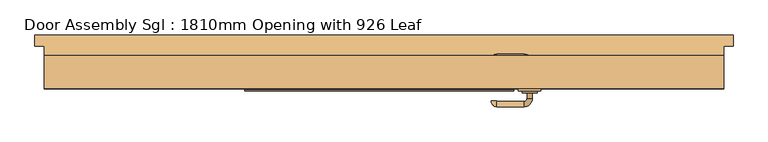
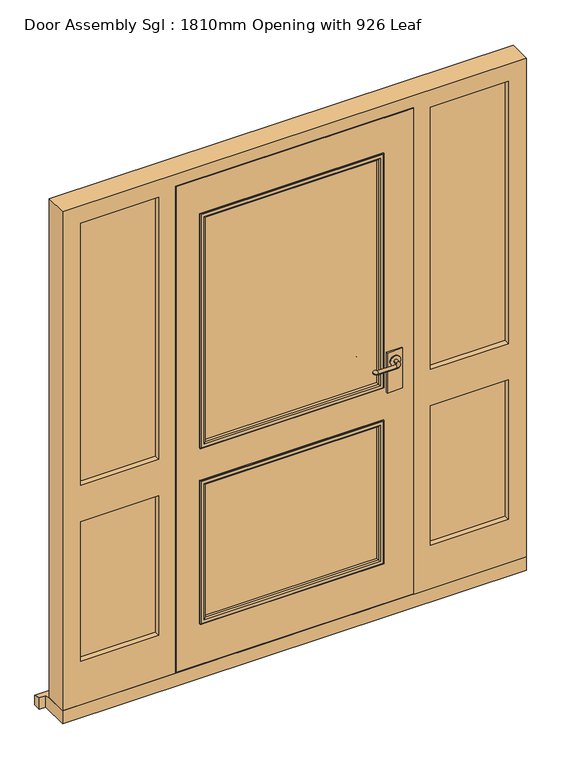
"""IFC4 building model written with IfcOpenShell, lengths in millimetres: door geometry, Door Assembly Sgl : 1810mm Opening with 926 Leaf."""

from ifc_helpers import new_model, si_unit, point, frame, frame_2d, origin, place, context, project, spatial, polyline, circle_curve, ellipse_curve, trimmed, segment, composite_curve, outline, extrude, faceted_brep, source, transform, mapped, element, save
from ifc_brep_helpers import plane_surface, cylinder_surface, revolved_surface, advanced_brep


def door_assembly_sgl_1810mm_opening_with_926_leaf_9757ed1b(model_context):
    return source(origin(), model_context, "Body", "SolidModel", [
        extrude(outline(composite_curve([segment(trimmed(circle_curve(frame_2d((1050.0, 680.0)), 20.0), [point((1050.0, 700.0))], [point((1050.0, 660.0))], False, "CARTESIAN"), True, "CONTINUOUS"), segment(trimmed(circle_curve(frame_2d((1050.0, 680.0)), 20.0), [point((1050.0, 660.0))], [point((1050.0, 700.0))], False, "CARTESIAN"), True, "CONTINUOUS")], self_intersect=False)), frame((0.0, -49.5929895, 0.0), z_axis=(0.0, 1.0, 0.0), x_axis=(0.0, 0.0, 1.0)), (0.0, 0.0, 1.0), 4.5929895),
        advanced_brep(
        [(673.0, -49.5929895, 1050.0), (687.0, -49.5929895, 1050.0), (673.0, -65.0, 1050.0), (687.0, -65.0, 1050.0), (665.0, -87.0, 1050.0), (665.0, -73.0, 1050.0), (593.0, -73.0, 1050.0), (593.0, -87.0, 1050.0), (592.0, -72.0, 1050.0), (578.0, -72.0, 1050.0)],
        [
            (0, 1, circle_curve(frame((680.0, -49.5929895, 1050.0), z_axis=(0.0, 1.0, 0.0), x_axis=(1.0, 0.0, 0.0)), 7.0)),
            (1, 0, circle_curve(frame((680.0, -49.5929895, 1050.0), z_axis=(0.0, 1.0, 0.0), x_axis=(1.0, 0.0, 0.0)), 7.0)),
            (0, 2),
            (2, 3, circle_curve(frame((680.0, -65.0, 1050.0), z_axis=(0.0, 1.0, 0.0), x_axis=(1.0, 0.0, 0.0)), 7.0)),
            (3, 1),
            (3, 2, circle_curve(frame((680.0, -65.0, 1050.0), z_axis=(0.0, 1.0, 0.0), x_axis=(1.0, 0.0, 0.0)), 7.0)),
            (4, 3, circle_curve(frame((665.0, -65.0, 1050.0), z_axis=(0.0, 0.0, 1.0), x_axis=(1.0, 0.0, 0.0)), 22.0)),
            (2, 5, circle_curve(frame((665.0, -65.0, 1050.0), z_axis=(0.0, 0.0, -1.0), x_axis=(1.0, 0.0, 0.0)), 8.0)),
            (5, 4, circle_curve(frame((665.0, -80.0, 1050.0), z_axis=(1.0, 0.0, 0.0), x_axis=(0.0, -1.0, 0.0)), 7.0)),
            (4, 5, circle_curve(frame((665.0, -80.0, 1050.0), z_axis=(1.0, 0.0, 0.0), x_axis=(0.0, -1.0, 0.0)), 7.0)),
            (5, 6),
            (6, 7, circle_curve(frame((593.0, -80.0, 1050.0), z_axis=(1.0, 0.0, 0.0), x_axis=(0.0, -1.0, 0.0)), 7.0)),
            (7, 4),
            (7, 6, circle_curve(frame((593.0, -80.0, 1050.0), z_axis=(1.0, 0.0, 0.0), x_axis=(0.0, -1.0, 0.0)), 7.0)),
            (8, 9, circle_curve(frame((585.0, -72.0, 1050.0), z_axis=(0.0, 1.0, 0.0), x_axis=(-1.0, 0.0, 0.0)), 7.0)),
            (9, 8, circle_curve(frame((585.0, -72.0, 1050.0), z_axis=(0.0, 1.0, 0.0), x_axis=(-1.0, 0.0, 0.0)), 7.0)),
            (9, 7, circle_curve(frame((593.0, -72.0, 1050.0), z_axis=(0.0, 0.0, 1.0), x_axis=(0.0, -1.0, 0.0)), 15.0)),
            (6, 8, circle_curve(frame((593.0, -72.0, 1050.0), z_axis=(0.0, 0.0, -1.0), x_axis=(0.0, -1.0, 0.0)), 1.0)),
        ],
        [
            plane_surface(frame((680.0, -49.5929895, 1050.0), z_axis=(0.0, 1.0, 0.0), x_axis=(0.0, 0.0, 1.0))),
            cylinder_surface(frame((680.0, -49.5929895, 1050.0), z_axis=(0.0, 1.0, 0.0), x_axis=(1.0, 0.0, 0.0)), 7.0),
            revolved_surface(trimmed(ellipse_curve(frame((680.0, -65.0, 1050.0), z_axis=(0.0, 1.0, 0.0), x_axis=(1.0, 0.0, 0.0)), 7.0, 7.0), [point((673.0, -65.0, 1050.0))], [point((687.0, -65.0, 1050.0))], True, "CARTESIAN"), (665.0, -65.0, 1050.0), (0.0, 0.0, -1.0)),
            revolved_surface(trimmed(ellipse_curve(frame((680.0, -65.0, 1050.0), z_axis=(0.0, 1.0, 0.0), x_axis=(1.0, 0.0, 0.0)), 7.0, 7.0), [point((687.0, -65.0, 1050.0))], [point((673.0, -65.0, 1050.0))], True, "CARTESIAN"), (665.0, -65.0, 1050.0), (0.0, 0.0, -1.0)),
            cylinder_surface(frame((665.0, -80.0, 1050.0), z_axis=(1.0, 0.0, 0.0), x_axis=(0.0, -1.0, 0.0)), 7.0),
            plane_surface(frame((585.0, -72.0, 1050.0), z_axis=(0.0, 1.0, 0.0), x_axis=(0.0, 0.0, 1.0))),
            revolved_surface(trimmed(ellipse_curve(frame((593.0, -80.0, 1050.0), z_axis=(1.0, 0.0, 0.0), x_axis=(0.0, -1.0, 0.0)), 7.0, 7.0), [point((593.0, -73.0, 1050.0))], [point((593.0, -87.0, 1050.0))], True, "CARTESIAN"), (593.0, -72.0, 1050.0), (0.0, 0.0, -1.0)),
            revolved_surface(trimmed(ellipse_curve(frame((593.0, -80.0, 1050.0), z_axis=(1.0, 0.0, 0.0), x_axis=(0.0, -1.0, 0.0)), 7.0, 7.0), [point((593.0, -87.0, 1050.0))], [point((593.0, -73.0, 1050.0))], True, "CARTESIAN"), (593.0, -72.0, 1050.0), (0.0, 0.0, -1.0)),
        ],
        [
            (0, [[1, 2]]),
            (1, [[-1, 3, 4, 5]]),
            (1, [[-2, -5, 6, -3]]),
            (2, [[7, -4, 8, 9]]),
            (3, [[-8, -6, -7, 10]]),
            (4, [[-9, 11, 12, 13]]),
            (4, [[-10, -13, 14, -11]]),
            (5, [[15, 16]]),
            (6, [[17, -12, 18, -16]]),
            (7, [[-18, -14, -17, -15]]),
        ],
    ),
        extrude(outline(polyline([(650.0, -39.0), (710.0, -39.0), (710.0, -45.0), (650.0, -45.0), (650.0, -39.0)])), frame((0.0, 0.0, 925.0), z_axis=(0.0, 0.0, 1.0), x_axis=(1.0, 0.0, 0.0)), (0.0, 0.0, 1.0), 165.0),
        extrude(outline(composite_curve([segment(trimmed(circle_curve(frame_2d((1050.0, 680.0)), 20.0), [point((1050.0, 700.0))], [point((1050.0, 660.0))], False, "CARTESIAN"), True, "CONTINUOUS"), segment(trimmed(circle_curve(frame_2d((1050.0, 680.0)), 20.0), [point((1050.0, 660.0))], [point((1050.0, 700.0))], False, "CARTESIAN"), True, "CONTINUOUS")], self_intersect=False)), frame((0.0, 11.0, 0.0), z_axis=(0.0, 1.0, 0.0), x_axis=(0.0, 0.0, 1.0)), (0.0, 0.0, 1.0), 4.5929895),
        advanced_brep(
        [(673.0, 15.5929895, 1050.0), (687.0, 15.5929895, 1050.0), (687.0, 31.0, 1050.0), (673.0, 31.0, 1050.0), (665.0, 53.0, 1050.0), (665.0, 39.0, 1050.0), (593.0, 53.0, 1050.0), (593.0, 39.0, 1050.0), (592.0, 38.0, 1050.0), (578.0, 38.0, 1050.0)],
        [
            (0, 1, circle_curve(frame((680.0, 15.5929895, 1050.0), z_axis=(0.0, -1.0, 0.0), x_axis=(1.0, 0.0, 0.0)), 7.0)),
            (1, 0, circle_curve(frame((680.0, 15.5929895, 1050.0), z_axis=(0.0, -1.0, 0.0), x_axis=(1.0, 0.0, 0.0)), 7.0)),
            (1, 2),
            (2, 3, circle_curve(frame((680.0, 31.0, 1050.0), z_axis=(0.0, -1.0, 0.0), x_axis=(1.0, 0.0, 0.0)), 7.0)),
            (3, 0),
            (3, 2, circle_curve(frame((680.0, 31.0, 1050.0), z_axis=(0.0, -1.0, 0.0), x_axis=(1.0, 0.0, 0.0)), 7.0)),
            (4, 5, circle_curve(frame((665.0, 46.0, 1050.0), z_axis=(1.0, 0.0, 0.0), x_axis=(0.0, 1.0, 0.0)), 7.0)),
            (5, 3, circle_curve(frame((665.0, 31.0, 1050.0), z_axis=(0.0, 0.0, -1.0), x_axis=(1.0, 0.0, 0.0)), 8.0)),
            (2, 4, circle_curve(frame((665.0, 31.0, 1050.0), z_axis=(0.0, 0.0, 1.0), x_axis=(1.0, 0.0, 0.0)), 22.0)),
            (5, 4, circle_curve(frame((665.0, 46.0, 1050.0), z_axis=(1.0, 0.0, 0.0), x_axis=(0.0, 1.0, 0.0)), 7.0)),
            (4, 6),
            (6, 7, circle_curve(frame((593.0, 46.0, 1050.0), z_axis=(1.0, 0.0, 0.0), x_axis=(0.0, 1.0, 0.0)), 7.0)),
            (7, 5),
            (7, 6, circle_curve(frame((593.0, 46.0, 1050.0), z_axis=(1.0, 0.0, 0.0), x_axis=(0.0, 1.0, 0.0)), 7.0)),
            (8, 9, circle_curve(frame((585.0, 38.0, 1050.0), z_axis=(0.0, -1.0, 0.0), x_axis=(-1.0, 0.0, 0.0)), 7.0)),
            (9, 8, circle_curve(frame((585.0, 38.0, 1050.0), z_axis=(0.0, -1.0, 0.0), x_axis=(-1.0, 0.0, 0.0)), 7.0)),
            (8, 7, circle_curve(frame((593.0, 38.0, 1050.0), z_axis=(0.0, 0.0, -1.0), x_axis=(0.0, 1.0, 0.0)), 1.0)),
            (6, 9, circle_curve(frame((593.0, 38.0, 1050.0), z_axis=(0.0, 0.0, 1.0), x_axis=(0.0, 1.0, 0.0)), 15.0)),
        ],
        [
            plane_surface(frame((680.0, 15.5929895, 1050.0), z_axis=(0.0, -1.0, 0.0), x_axis=(0.0, 0.0, 1.0))),
            cylinder_surface(frame((680.0, 15.5929895, 1050.0), z_axis=(0.0, -1.0, 0.0), x_axis=(1.0, 0.0, 0.0)), 7.0),
            revolved_surface(trimmed(ellipse_curve(frame((680.0, 31.0, 1050.0), z_axis=(0.0, 1.0, 0.0), x_axis=(1.0, 0.0, 0.0)), 7.0, 7.0), [point((673.0, 31.0, 1050.0))], [point((687.0, 31.0, 1050.0))], True, "CARTESIAN"), (665.0, 31.0, 1050.0), (0.0, 0.0, -1.0)),
            revolved_surface(trimmed(ellipse_curve(frame((680.0, 31.0, 1050.0), z_axis=(0.0, 1.0, 0.0), x_axis=(1.0, 0.0, 0.0)), 7.0, 7.0), [point((687.0, 31.0, 1050.0))], [point((673.0, 31.0, 1050.0))], True, "CARTESIAN"), (665.0, 31.0, 1050.0), (0.0, 0.0, -1.0)),
            cylinder_surface(frame((665.0, 46.0, 1050.0), z_axis=(1.0, 0.0, 0.0), x_axis=(0.0, 1.0, 0.0)), 7.0),
            plane_surface(frame((585.0, 38.0, 1050.0), z_axis=(0.0, -1.0, 0.0), x_axis=(0.0, 0.0, 1.0))),
            revolved_surface(trimmed(ellipse_curve(frame((593.0, 46.0, 1050.0), z_axis=(-1.0, 0.0, 0.0), x_axis=(0.0, 1.0, 0.0)), 7.0, 7.0), [point((593.0, 39.0, 1050.0))], [point((593.0, 53.0, 1050.0))], True, "CARTESIAN"), (593.0, 38.0, 1050.0), (0.0, 0.0, -1.0)),
            revolved_surface(trimmed(ellipse_curve(frame((593.0, 46.0, 1050.0), z_axis=(-1.0, 0.0, 0.0), x_axis=(0.0, 1.0, 0.0)), 7.0, 7.0), [point((593.0, 53.0, 1050.0))], [point((593.0, 39.0, 1050.0))], True, "CARTESIAN"), (593.0, 38.0, 1050.0), (0.0, 0.0, -1.0)),
        ],
        [
            (0, [[1, 2]]),
            (1, [[3, 4, 5, -2]]),
            (1, [[-5, 6, -3, -1]]),
            (2, [[7, 8, -4, 9]]),
            (3, [[10, -9, -6, -8]]),
            (4, [[11, 12, 13, -7]]),
            (4, [[-13, 14, -11, -10]]),
            (5, [[15, 16]]),
            (6, [[-15, 17, -12, 18]]),
            (7, [[-16, -18, -14, -17]]),
        ],
    ),
        extrude(outline(polyline([(650.0, 5.0), (650.0, 11.0), (710.0, 11.0), (710.0, 5.0), (650.0, 5.0)])), frame((0.0, 0.0, 925.0), z_axis=(0.0, 0.0, 1.0), x_axis=(1.0, 0.0, 0.0)), (0.0, 0.0, 1.0), 165.0),
        extrude(outline(polyline([(1148.5, -16.0), (800.0, -16.0), (800.0, 8.0), (1148.5, 8.0), (1148.5, -16.0)])), frame((0.0, 0.0, 218.5), z_axis=(0.0, 0.0, 1.0), x_axis=(1.0, 0.0, 0.0)), (0.0, 0.0, 1.0), 605.0),
        extrude(outline(polyline([(1148.5, -16.0), (800.0, -16.0), (800.0, 8.0), (1148.5, 8.0), (1148.5, -16.0)])), frame((0.0, 0.0, 943.5), z_axis=(0.0, 0.0, 1.0), x_axis=(1.0, 0.0, 0.0)), (0.0, 0.0, 1.0), 1118.0),
        extrude(outline(polyline([(-216.0, -16.0), (-564.5, -16.0), (-564.5, 8.0), (-216.0, 8.0), (-216.0, -16.0)])), frame((0.0, 0.0, 943.5), z_axis=(0.0, 0.0, 1.0), x_axis=(1.0, 0.0, 0.0)), (0.0, 0.0, 1.0), 1118.0),
        extrude(outline(polyline([(-216.0, -16.0), (-564.5, -16.0), (-564.5, 8.0), (-216.0, 8.0), (-216.0, -16.0)])), frame((0.0, 0.0, 218.5), z_axis=(0.0, 0.0, 1.0), x_axis=(1.0, 0.0, 0.0)), (0.0, 0.0, 1.0), 605.0),
        faceted_brep([(1197.0, 50.0, 54.5), (1197.0, -39.0, 54.5), (758.0, -39.0, 54.5), (758.0, 8.0, 54.5), (736.0, 8.0, 54.5), (736.0, 50.0, 54.5), (1197.0, 50.0, 2110.0), (1197.0, -39.0, 2110.0), (-613.0, -39.0, 2110.0), (-613.0, -39.0, 54.5), (-174.0, -39.0, 54.5), (-174.0, -39.0, 2061.5), (758.0, -39.0, 2061.5), (1126.5, -39.0, 958.5), (822.0, -39.0, 958.5), (822.0, -39.0, 2039.5), (1126.5, -39.0, 2039.5), (822.0, -39.0, 808.5), (1126.5, -39.0, 808.5), (1126.5, -39.0, 233.5), (822.0, -39.0, 233.5), (-238.0, -39.0, 808.5), (-238.0, -39.0, 233.5), (-542.5, -39.0, 233.5), (-542.5, -39.0, 808.5), (-542.5, -39.0, 2039.5), (-238.0, -39.0, 2039.5), (-238.0, -39.0, 958.5), (-542.5, -39.0, 958.5), (758.0, 8.0, 2061.5), (-174.0, 8.0, 54.5), (-152.0, 8.0, 54.5), (-152.0, 8.0, 2039.5), (736.0, 8.0, 2039.5), (-174.0, 8.0, 2061.5), (1148.5, 8.0, 218.5), (1148.5, 8.0, 823.5), (800.0, 8.0, 823.5), (800.0, 8.0, 218.5), (1126.5, 8.0, 808.5), (1126.5, 8.0, 233.5), (822.0, 8.0, 233.5), (822.0, 8.0, 808.5), (-564.5, 8.0, 823.5), (-564.5, 8.0, 218.5), (-216.0, 8.0, 218.5), (-216.0, 8.0, 823.5), (-238.0, 8.0, 808.5), (-238.0, 8.0, 233.5), (-542.5, 8.0, 233.5), (-542.5, 8.0, 808.5), (-216.0, 8.0, 2061.5), (-564.5, 8.0, 2061.5), (-564.5, 8.0, 943.5), (-216.0, 8.0, 943.5), (-542.5, 8.0, 2039.5), (-238.0, 8.0, 2039.5), (-238.0, 8.0, 958.5), (-542.5, 8.0, 958.5), (1148.5, 8.0, 2061.5), (800.0, 8.0, 2061.5), (800.0, 8.0, 943.5), (1148.5, 8.0, 943.5), (822.0, 8.0, 2039.5), (1126.5, 8.0, 2039.5), (1126.5, 8.0, 958.5), (822.0, 8.0, 958.5), (736.0, 50.0, 2039.5), (-613.0, 50.0, 54.5), (-613.0, 50.0, 2110.0), (-152.0, 50.0, 2039.5), (-152.0, 50.0, 54.5), (-238.0, 50.0, 2039.5), (-542.5, 50.0, 2039.5), (-542.5, 50.0, 233.5), (-238.0, 50.0, 233.5), (1126.5, 50.0, 2039.5), (822.0, 50.0, 2039.5), (822.0, 50.0, 233.5), (1126.5, 50.0, 233.5), (-542.5, 31.0, 958.5), (-542.5, 31.0, 808.5), (-238.0, 31.0, 808.5), (-238.0, 31.0, 958.5), (822.0, 31.0, 958.5), (822.0, 31.0, 808.5), (1126.5, 31.0, 808.5), (1126.5, 31.0, 958.5), (1126.5, -16.0, 958.5), (822.0, -16.0, 958.5), (822.0, -16.0, 233.5), (822.0, -16.0, 808.5), (822.0, -16.0, 2039.5), (1126.5, -16.0, 808.5), (1126.5, -16.0, 233.5), (1126.5, -16.0, 2039.5), (-238.0, -16.0, 808.5), (-238.0, -16.0, 233.5), (-238.0, -16.0, 2039.5), (-238.0, -16.0, 958.5), (-542.5, -16.0, 233.5), (-542.5, -16.0, 808.5), (-542.5, -16.0, 2039.5), (-542.5, -16.0, 958.5), (1148.5, -16.0, 218.5), (1148.5, -16.0, 823.5), (1148.5, -16.0, 943.5), (1148.5, -16.0, 2061.5), (800.0, -16.0, 218.5), (800.0, -16.0, 823.5), (800.0, -16.0, 2061.5), (800.0, -16.0, 943.5), (-564.5, -16.0, 218.5), (-564.5, -16.0, 823.5), (-564.5, -16.0, 943.5), (-564.5, -16.0, 2061.5), (-216.0, -16.0, 943.5), (-216.0, -16.0, 2061.5), (-216.0, -16.0, 218.5), (-216.0, -16.0, 823.5)], [[[0, 1, 2, 3, 4, 5]], [[1, 0, 6, 7]], [[1, 7, 8, 9, 10, 11, 12, 2], [13, 14, 15, 16], [17, 18, 19, 20], [21, 22, 23, 24], [25, 26, 27, 28]], [[3, 2, 12, 29]], [[30, 31, 32, 33, 4, 3, 29, 34]], [[35, 36, 37, 38], [39, 40, 41, 42]], [[43, 44, 45, 46], [47, 48, 49, 50]], [[51, 52, 53, 54], [55, 56, 57, 58]], [[59, 60, 61, 62], [63, 64, 65, 66]], [[5, 4, 33, 67]], [[68, 69, 6, 0, 5, 67, 70, 71], [72, 73, 74, 75], [76, 77, 78, 79]], [[69, 68, 9, 8]], [[31, 71, 70, 32]], [[9, 68, 71, 31, 30, 10]], [[73, 55, 58, 80, 81, 50, 49, 74]], [[49, 48, 75, 74]], [[56, 72, 75, 48, 47, 82, 83, 57]], [[77, 63, 66, 84, 85, 42, 41, 78]], [[79, 78, 41, 40]], [[64, 76, 79, 40, 39, 86, 87, 65]], [[14, 13, 88, 89]], [[17, 20, 90, 91]], [[92, 15, 14, 89]], [[19, 18, 93, 94]], [[16, 95, 88, 13]], [[18, 17, 91, 93]], [[20, 19, 94, 90]], [[22, 21, 96, 97]], [[26, 98, 99, 27]], [[23, 22, 97, 100]], [[24, 23, 100, 101]], [[102, 25, 28, 103]], [[21, 24, 101, 96]], [[28, 27, 99, 103]], [[10, 30, 34, 11]], [[104, 105, 36, 35]], [[106, 107, 59, 62]], [[104, 108, 109, 105], [94, 93, 91, 90]], [[110, 107, 106, 111], [95, 92, 89, 88]], [[36, 105, 109, 37]], [[108, 104, 35, 38]], [[111, 106, 62, 61]], [[58, 57, 83, 80]], [[112, 44, 43, 113]], [[114, 53, 52, 115]], [[53, 114, 116, 54]], [[54, 116, 117, 51]], [[45, 118, 119, 46]], [[66, 65, 87, 84]], [[110, 111, 61, 60]], [[109, 108, 38, 37]], [[39, 42, 85, 86]], [[47, 50, 81, 82]], [[112, 118, 45, 44]], [[113, 43, 46, 119]], [[84, 87, 86, 85]], [[118, 112, 113, 119], [100, 97, 96, 101]], [[115, 117, 116, 114], [98, 102, 103, 99]], [[80, 83, 82, 81]], [[6, 69, 8, 7]], [[52, 51, 117, 115]], [[60, 59, 107, 110]], [[11, 34, 29, 12]], [[76, 64, 63, 77]], [[55, 73, 72, 56]], [[32, 70, 67, 33]], [[102, 98, 26, 25]], [[16, 15, 92, 95]]]),
        extrude(outline(polyline([(-71.0, -5.0), (630.0, -5.0), (630.0, -29.0), (-71.0, -29.0), (-71.0, -5.0)])), frame((0.0, 0.0, 958.5), z_axis=(0.0, 0.0, 1.0), x_axis=(1.0, 0.0, 0.0)), (0.0, 0.0, 1.0), 950.0),
        extrude(outline(polyline([(-71.0, -5.0), (630.0, -5.0), (630.0, -29.0), (-71.0, -29.0), (-71.0, -5.0)])), frame((0.0, 0.0, 233.5), z_axis=(0.0, 0.0, 1.0), x_axis=(1.0, 0.0, 0.0)), (0.0, 0.0, 1.0), 575.0),
        faceted_brep([(1222.0, 105.0, 0.0), (1222.0, 105.0, 38.5947221), (1222.0, 75.0, 47.2703282), (1222.0, 75.0, 0.0), (-638.0, 105.0, 38.5947221), (-638.0, 105.0, 0.0), (-638.0, 75.0, 0.0), (-638.0, 75.0, 47.2703282), (1197.0, 75.0, 0.0), (1197.0, -39.0, 0.0), (-613.0, -39.0, 0.0), (-613.0, 75.0, 0.0), (-613.0, 75.0, 47.2703282), (-613.0, 50.0, 54.5), (1197.0, 50.0, 54.5), (1197.0, 75.0, 47.2703282), (-613.0, -39.0, 54.5), (1197.0, -39.0, 54.5)], [[[0, 1, 2, 3]], [[4, 5, 6, 7]], [[5, 0, 3, 8, 9, 10, 11, 6]], [[1, 0, 5, 4]], [[1, 4, 7, 12, 13, 14, 15, 2]], [[13, 16, 17, 14]], [[16, 10, 9, 17]], [[12, 11, 10, 16, 13]], [[11, 12, 7, 6]], [[8, 15, 14, 17, 9]], [[15, 8, 3, 2]]]),
        extrude(outline(polyline([(58.5, -171.0), (58.5, 755.0), (2058.5, 755.0), (2058.5, -171.0), (58.5, -171.0)]), holes=[polyline([(1908.5, 630.0), (958.5, 630.0), (958.5, -71.0), (1908.5, -71.0), (1908.5, 630.0)]), polyline([(808.5, -71.0), (808.5, 630.0), (233.5, 630.0), (233.5, -71.0), (808.5, -71.0)])]), frame((0.0, -39.0, 0.0), z_axis=(0.0, 1.0, 0.0), x_axis=(0.0, 0.0, 1.0)), (0.0, 0.0, 1.0), 44.0),
        advanced_brep(
        [(630.0, -29.0, 808.5), (630.0, -39.0, 808.5), (630.0, -39.0, 233.5), (630.0, -29.0, 233.5), (618.0, -40.0, 796.5), (618.0, -29.0, 796.5), (618.0, -29.0, 245.5), (618.0, -40.0, 245.5), (623.0, -45.0, 801.5), (623.0, -45.0, 240.5), (638.0, -43.0, 816.5), (636.0, -45.0, 814.5), (636.0, -45.0, 227.5), (638.0, -43.0, 225.5), (638.0, -39.0, 816.5), (638.0, -39.0, 225.5), (-71.0, -39.0, 233.5), (-71.0, -29.0, 233.5), (-59.0, -29.0, 245.5), (-59.0, -40.0, 245.5), (-64.0, -45.0, 240.5), (-77.0, -45.0, 227.5), (-79.0, -43.0, 225.5), (-79.0, -39.0, 225.5), (-71.0, -39.0, 808.5), (-71.0, -29.0, 808.5), (-59.0, -29.0, 796.5), (-59.0, -40.0, 796.5), (-64.0, -45.0, 801.5), (-77.0, -45.0, 814.5), (-79.0, -43.0, 816.5), (-79.0, -39.0, 816.5)],
        [
            (0, 1),
            (1, 2),
            (2, 3),
            (3, 0),
            (4, 5),
            (5, 6),
            (6, 7),
            (7, 4),
            (8, 4, ellipse_curve(frame((623.0, -40.0, 801.5), z_axis=(0.707106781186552, 0.0, -0.707106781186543), x_axis=(0.7071067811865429, 0.0, 0.707106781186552)), 7.0710678, 5.0)),
            (7, 9, ellipse_curve(frame((623.0, -40.0, 240.5), z_axis=(0.7071067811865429, 0.0, 0.707106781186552), x_axis=(-0.7071067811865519, 0.0, 0.7071067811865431)), 7.0710678, 5.0)),
            (9, 8),
            (10, 11, ellipse_curve(frame((636.0, -43.0, 814.5), z_axis=(0.707106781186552, 0.0, -0.707106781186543), x_axis=(0.7071067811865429, 0.0, 0.707106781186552)), 2.8284271, 2.0)),
            (11, 12),
            (12, 13, ellipse_curve(frame((636.0, -43.0, 227.5), z_axis=(0.7071067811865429, 0.0, 0.707106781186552), x_axis=(-0.7071067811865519, 0.0, 0.7071067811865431)), 2.8284271, 2.0)),
            (13, 10),
            (14, 10),
            (13, 15),
            (15, 14),
            (2, 16),
            (16, 17),
            (17, 3),
            (6, 18),
            (18, 19),
            (19, 7),
            (19, 20, ellipse_curve(frame((-64.0, -40.0, 240.5), z_axis=(0.707106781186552, 0.0, -0.7071067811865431), x_axis=(0.7071067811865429, 0.0, 0.707106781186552)), 7.0710678, 5.0)),
            (20, 9),
            (12, 21),
            (21, 22, ellipse_curve(frame((-77.0, -43.0, 227.5), z_axis=(0.707106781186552, 0.0, -0.7071067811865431), x_axis=(0.7071067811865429, 0.0, 0.707106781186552)), 2.8284271, 2.0)),
            (22, 13),
            (22, 23),
            (23, 15),
            (16, 24),
            (24, 25),
            (25, 17),
            (18, 26),
            (26, 27),
            (27, 19),
            (27, 28, ellipse_curve(frame((-64.0, -40.0, 801.5), z_axis=(-0.707106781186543, 0.0, -0.7071067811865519), x_axis=(0.7071067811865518, 0.0, -0.7071067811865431)), 7.0710678, 5.0)),
            (28, 20),
            (21, 29),
            (29, 30, ellipse_curve(frame((-77.0, -43.0, 814.5), z_axis=(-0.707106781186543, 0.0, -0.7071067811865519), x_axis=(0.7071067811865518, 0.0, -0.7071067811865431)), 2.8284271, 2.0)),
            (30, 22),
            (30, 31),
            (31, 23),
            (31, 14),
            (1, 24),
            (0, 25),
            (5, 26),
            (4, 27),
            (8, 28),
            (11, 29),
            (10, 30),
        ],
        [
            plane_surface(frame((630.0, -39.0, 808.5), z_axis=(1.0, 0.0, 0.0), x_axis=(0.0, 0.0, -1.0))),
            plane_surface(frame((618.0, -29.0, 796.5), z_axis=(-1.0, 0.0, 0.0), x_axis=(0.0, 0.0, -1.0))),
            cylinder_surface(frame((623.0, -40.0, 808.5), z_axis=(0.0, 0.0, 1.0), x_axis=(1.0, 0.0, 0.0)), 5.0),
            cylinder_surface(frame((636.0, -43.0, 808.5), z_axis=(0.0, 0.0, 1.0), x_axis=(1.0, 0.0, 0.0)), 2.0),
            plane_surface(frame((638.0, -43.0, 816.5), z_axis=(1.0, 0.0, 0.0), x_axis=(0.0, 0.0, -1.0))),
            plane_surface(frame((630.0, -39.0, 233.5), z_axis=(0.0, 0.0, -1.0), x_axis=(-1.0, 0.0, 0.0))),
            plane_surface(frame((618.0, -29.0, 245.5), z_axis=(0.0, 0.0, 1.0), x_axis=(-1.0, 0.0, 0.0))),
            cylinder_surface(frame((630.0, -40.0, 240.5), z_axis=(1.0, 0.0, 0.0), x_axis=(0.0, 0.0, -1.0)), 5.0),
            cylinder_surface(frame((630.0, -43.0, 227.5), z_axis=(1.0, 0.0, 0.0), x_axis=(0.0, 0.0, -1.0)), 2.0),
            plane_surface(frame((638.0, -43.0, 225.5), z_axis=(0.0, 0.0, -1.0), x_axis=(-1.0, 0.0, 0.0))),
            plane_surface(frame((-71.0, -39.0, 233.5), z_axis=(-1.0, 0.0, 0.0), x_axis=(0.0, 0.0, 1.0))),
            plane_surface(frame((-59.0, -29.0, 245.5), z_axis=(1.0, 0.0, 0.0), x_axis=(0.0, 0.0, 1.0))),
            cylinder_surface(frame((-64.0, -40.0, 233.5), z_axis=(0.0, 0.0, -1.0), x_axis=(-1.0, 0.0, 0.0)), 5.0),
            cylinder_surface(frame((-77.0, -43.0, 233.5), z_axis=(0.0, 0.0, -1.0), x_axis=(-1.0, 0.0, 0.0)), 2.0),
            plane_surface(frame((-79.0, -43.0, 225.5), z_axis=(-1.0, 0.0, 0.0), x_axis=(0.0, 0.0, 1.0))),
            plane_surface(frame((-79.0, -39.0, 816.5), z_axis=(0.0, 1.0, 0.0), x_axis=(1.0, 0.0, 0.0))),
            plane_surface(frame((-71.0, -39.0, 808.5), z_axis=(0.0, 0.0, 1.0), x_axis=(1.0, 0.0, 0.0))),
            plane_surface(frame((-71.0, -29.0, 808.5), z_axis=(0.0, 1.0, 0.0), x_axis=(1.0, 0.0, 0.0))),
            plane_surface(frame((-59.0, -29.0, 796.5), z_axis=(0.0, 0.0, -1.0), x_axis=(1.0, 0.0, 0.0))),
            cylinder_surface(frame((-71.0, -40.0, 801.5), z_axis=(-1.0, 0.0, 0.0), x_axis=(0.0, 0.0, 1.0)), 5.0),
            plane_surface(frame((-64.0, -45.0, 801.5), z_axis=(0.0, -1.0, 0.0), x_axis=(1.0, 0.0, 0.0))),
            cylinder_surface(frame((-71.0, -43.0, 814.5), z_axis=(-1.0, 0.0, 0.0), x_axis=(0.0, 0.0, 1.0)), 2.0),
            plane_surface(frame((-79.0, -43.0, 816.5), z_axis=(0.0, 0.0, 1.0), x_axis=(1.0, 0.0, 0.0))),
        ],
        [
            (0, [[1, 2, 3, 4]]),
            (1, [[5, 6, 7, 8]]),
            (2, [[9, -8, 10, 11]]),
            (3, [[12, 13, 14, 15]]),
            (4, [[16, -15, 17, 18]]),
            (5, [[-3, 19, 20, 21]]),
            (6, [[-7, 22, 23, 24]]),
            (7, [[-10, -24, 25, 26]]),
            (8, [[-14, 27, 28, 29]]),
            (9, [[-17, -29, 30, 31]]),
            (10, [[-20, 32, 33, 34]]),
            (11, [[-23, 35, 36, 37]]),
            (12, [[-25, -37, 38, 39]]),
            (13, [[-28, 40, 41, 42]]),
            (14, [[-30, -42, 43, 44]]),
            (15, [[-31, -44, 45, -18], [46, -32, -19, -2]]),
            (16, [[-33, -46, -1, 47]]),
            (17, [[-21, -34, -47, -4], [48, -35, -22, -6]]),
            (18, [[-36, -48, -5, 49]]),
            (19, [[-38, -49, -9, 50]]),
            (20, [[51, -40, -27, -13], [-26, -39, -50, -11]]),
            (21, [[-41, -51, -12, 52]]),
            (22, [[-43, -52, -16, -45]]),
        ],
    ),
        advanced_brep(
        [(-71.0, -5.0, 808.5), (-71.0, 5.0, 808.5), (-71.0, 5.0, 233.5), (-71.0, -5.0, 233.5), (-59.0, 6.0, 796.5), (-59.0, -5.0, 796.5), (-59.0, -5.0, 245.5), (-59.0, 6.0, 245.5), (-64.0, 11.0, 801.5), (-64.0, 11.0, 240.5), (-79.0, 9.0, 816.5), (-77.0, 11.0, 814.5), (-77.0, 11.0, 227.5), (-79.0, 9.0, 225.5), (-79.0, 5.0, 816.5), (-79.0, 5.0, 225.5), (630.0, 5.0, 233.5), (630.0, -5.0, 233.5), (618.0, -5.0, 245.5), (618.0, 6.0, 245.5), (623.0, 11.0, 240.5), (636.0, 11.0, 227.5), (638.0, 9.0, 225.5), (638.0, 5.0, 225.5), (630.0, 5.0, 808.5), (630.0, -5.0, 808.5), (618.0, -5.0, 796.5), (618.0, 6.0, 796.5), (623.0, 11.0, 801.5), (636.0, 11.0, 814.5), (638.0, 9.0, 816.5), (638.0, 5.0, 816.5)],
        [
            (0, 1),
            (1, 2),
            (2, 3),
            (3, 0),
            (4, 5),
            (5, 6),
            (6, 7),
            (7, 4),
            (8, 4, ellipse_curve(frame((-64.0, 6.0, 801.5), z_axis=(-0.7071067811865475, 0.0, -0.7071067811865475), x_axis=(-0.7071067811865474, 0.0, 0.7071067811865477)), 7.0710678, 5.0)),
            (7, 9, ellipse_curve(frame((-64.0, 6.0, 240.5), z_axis=(-0.7071067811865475, 0.0, 0.7071067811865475), x_axis=(0.7071067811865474, 0.0, 0.7071067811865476)), 7.0710678, 5.0)),
            (9, 8),
            (10, 11, ellipse_curve(frame((-77.0, 9.0, 814.5), z_axis=(-0.7071067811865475, 0.0, -0.7071067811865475), x_axis=(-0.7071067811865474, 0.0, 0.7071067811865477)), 2.8284271, 2.0)),
            (11, 12),
            (12, 13, ellipse_curve(frame((-77.0, 9.0, 227.5), z_axis=(-0.7071067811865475, 0.0, 0.7071067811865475), x_axis=(0.7071067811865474, 0.0, 0.7071067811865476)), 2.8284271, 2.0)),
            (13, 10),
            (14, 10),
            (13, 15),
            (15, 14),
            (2, 16),
            (16, 17),
            (17, 3),
            (6, 18),
            (18, 19),
            (19, 7),
            (19, 20, ellipse_curve(frame((623.0, 6.0, 240.5), z_axis=(-0.7071067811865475, 0.0, -0.7071067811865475), x_axis=(-0.7071067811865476, 0.0, 0.7071067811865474)), 7.0710678, 5.0)),
            (20, 9),
            (12, 21),
            (21, 22, ellipse_curve(frame((636.0, 9.0, 227.5), z_axis=(-0.7071067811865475, 0.0, -0.7071067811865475), x_axis=(-0.7071067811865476, 0.0, 0.7071067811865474)), 2.8284271, 2.0)),
            (22, 13),
            (22, 23),
            (23, 15),
            (16, 24),
            (24, 25),
            (25, 17),
            (18, 26),
            (26, 27),
            (27, 19),
            (27, 28, ellipse_curve(frame((623.0, 6.0, 801.5), z_axis=(0.7071067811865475, 0.0, -0.7071067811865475), x_axis=(-0.7071067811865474, 0.0, -0.7071067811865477)), 7.0710678, 5.0)),
            (28, 20),
            (21, 29),
            (29, 30, ellipse_curve(frame((636.0, 9.0, 814.5), z_axis=(0.7071067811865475, 0.0, -0.7071067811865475), x_axis=(-0.7071067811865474, 0.0, -0.7071067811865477)), 2.8284271, 2.0)),
            (30, 22),
            (30, 31),
            (31, 23),
            (31, 14),
            (1, 24),
            (0, 25),
            (5, 26),
            (4, 27),
            (8, 28),
            (11, 29),
            (10, 30),
        ],
        [
            plane_surface(frame((-71.0, 5.0, 808.5), z_axis=(-1.0, 0.0, 0.0), x_axis=(0.0, 0.0, -1.0))),
            plane_surface(frame((-59.0, -5.0, 796.5), z_axis=(1.0, 0.0, 0.0), x_axis=(0.0, 0.0, -1.0))),
            cylinder_surface(frame((-64.0, 6.0, 808.5), z_axis=(0.0, 0.0, 1.0), x_axis=(-1.0, 0.0, 0.0)), 5.0),
            cylinder_surface(frame((-77.0, 9.0, 808.5), z_axis=(0.0, 0.0, 1.0), x_axis=(-1.0, 0.0, 0.0)), 2.0),
            plane_surface(frame((-79.0, 9.0, 816.5), z_axis=(-1.0, 0.0, 0.0), x_axis=(0.0, 0.0, -1.0))),
            plane_surface(frame((-71.0, 5.0, 233.5), z_axis=(0.0, 0.0, -1.0), x_axis=(1.0, 0.0, 0.0))),
            plane_surface(frame((-59.0, -5.0, 245.5), z_axis=(0.0, 0.0, 1.0), x_axis=(1.0, 0.0, 0.0))),
            cylinder_surface(frame((-71.0, 6.0, 240.5), z_axis=(-1.0, 0.0, 0.0), x_axis=(0.0, 0.0, -1.0)), 5.0),
            cylinder_surface(frame((-71.0, 9.0, 227.5), z_axis=(-1.0, 0.0, 0.0), x_axis=(0.0, 0.0, -1.0)), 2.0),
            plane_surface(frame((-79.0, 9.0, 225.5), z_axis=(0.0, 0.0, -1.0), x_axis=(1.0, 0.0, 0.0))),
            plane_surface(frame((630.0, 5.0, 233.5), z_axis=(1.0, 0.0, 0.0), x_axis=(0.0, 0.0, 1.0))),
            plane_surface(frame((618.0, -5.0, 245.5), z_axis=(-1.0, 0.0, 0.0), x_axis=(0.0, 0.0, 1.0))),
            cylinder_surface(frame((623.0, 6.0, 233.5), z_axis=(0.0, 0.0, -1.0), x_axis=(1.0, 0.0, 0.0)), 5.0),
            cylinder_surface(frame((636.0, 9.0, 233.5), z_axis=(0.0, 0.0, -1.0), x_axis=(1.0, 0.0, 0.0)), 2.0),
            plane_surface(frame((638.0, 9.0, 225.5), z_axis=(1.0, 0.0, 0.0), x_axis=(0.0, 0.0, 1.0))),
            plane_surface(frame((638.0, 5.0, 816.5), z_axis=(0.0, -1.0, 0.0), x_axis=(-1.0, 0.0, 0.0))),
            plane_surface(frame((630.0, 5.0, 808.5), z_axis=(0.0, 0.0, 1.0), x_axis=(-1.0, 0.0, 0.0))),
            plane_surface(frame((630.0, -5.0, 808.5), z_axis=(0.0, -1.0, 0.0), x_axis=(-1.0, 0.0, 0.0))),
            plane_surface(frame((618.0, -5.0, 796.5), z_axis=(0.0, 0.0, -1.0), x_axis=(-1.0, 0.0, 0.0))),
            cylinder_surface(frame((630.0, 6.0, 801.5), z_axis=(1.0, 0.0, 0.0), x_axis=(0.0, 0.0, 1.0)), 5.0),
            plane_surface(frame((623.0, 11.0, 801.5), z_axis=(0.0, 1.0, 0.0), x_axis=(-1.0, 0.0, 0.0))),
            cylinder_surface(frame((630.0, 9.0, 814.5), z_axis=(1.0, 0.0, 0.0), x_axis=(0.0, 0.0, 1.0)), 2.0),
            plane_surface(frame((638.0, 9.0, 816.5), z_axis=(0.0, 0.0, 1.0), x_axis=(-1.0, 0.0, 0.0))),
        ],
        [
            (0, [[1, 2, 3, 4]]),
            (1, [[5, 6, 7, 8]]),
            (2, [[9, -8, 10, 11]]),
            (3, [[12, 13, 14, 15]]),
            (4, [[16, -15, 17, 18]]),
            (5, [[-3, 19, 20, 21]]),
            (6, [[-7, 22, 23, 24]]),
            (7, [[-10, -24, 25, 26]]),
            (8, [[-14, 27, 28, 29]]),
            (9, [[-17, -29, 30, 31]]),
            (10, [[-20, 32, 33, 34]]),
            (11, [[-23, 35, 36, 37]]),
            (12, [[-25, -37, 38, 39]]),
            (13, [[-28, 40, 41, 42]]),
            (14, [[-30, -42, 43, 44]]),
            (15, [[-31, -44, 45, -18], [46, -32, -19, -2]]),
            (16, [[-33, -46, -1, 47]]),
            (17, [[-21, -34, -47, -4], [48, -35, -22, -6]]),
            (18, [[-36, -48, -5, 49]]),
            (19, [[-38, -49, -9, 50]]),
            (20, [[51, -40, -27, -13], [-26, -39, -50, -11]]),
            (21, [[-41, -51, -12, 52]]),
            (22, [[-43, -52, -16, -45]]),
        ],
    ),
        advanced_brep(
        [(-79.0, 9.0, 950.5), (-79.0, 5.0, 950.5), (-79.0, 5.0, 1916.5), (-79.0, 9.0, 1916.5), (-77.0, 11.0, 952.5), (-77.0, 11.0, 1914.5), (-59.0, 6.0, 970.5), (-64.0, 11.0, 965.5), (-64.0, 11.0, 1901.5), (-59.0, 6.0, 1896.5), (-59.0, -5.0, 970.5), (-59.0, -5.0, 1896.5), (-71.0, 5.0, 958.5), (-71.0, -5.0, 958.5), (-71.0, -5.0, 1908.5), (-71.0, 5.0, 1908.5), (638.0, 5.0, 1916.5), (638.0, 9.0, 1916.5), (636.0, 11.0, 1914.5), (623.0, 11.0, 1901.5), (618.0, 6.0, 1896.5), (618.0, -5.0, 1896.5), (630.0, -5.0, 1908.5), (630.0, 5.0, 1908.5), (638.0, 5.0, 950.5), (638.0, 9.0, 950.5), (636.0, 11.0, 952.5), (623.0, 11.0, 965.5), (618.0, 6.0, 970.5), (618.0, -5.0, 970.5), (630.0, -5.0, 958.5), (630.0, 5.0, 958.5)],
        [
            (0, 1),
            (1, 2),
            (2, 3),
            (3, 0),
            (4, 0, ellipse_curve(frame((-77.0, 9.0, 952.5), z_axis=(-0.7071067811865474, 0.0, 0.7071067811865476), x_axis=(-0.7071067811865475, 0.0, -0.7071067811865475)), 2.8284271, 2.0)),
            (3, 5, ellipse_curve(frame((-77.0, 9.0, 1914.5), z_axis=(-0.7071067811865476, 0.0, -0.7071067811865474), x_axis=(0.7071067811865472, 0.0, -0.7071067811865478)), 2.8284271, 2.0)),
            (5, 4),
            (6, 7, ellipse_curve(frame((-64.0, 6.0, 965.5), z_axis=(-0.7071067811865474, 0.0, 0.7071067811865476), x_axis=(-0.7071067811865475, 0.0, -0.7071067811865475)), 7.0710678, 5.0)),
            (7, 8),
            (8, 9, ellipse_curve(frame((-64.0, 6.0, 1901.5), z_axis=(-0.7071067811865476, 0.0, -0.7071067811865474), x_axis=(0.7071067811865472, 0.0, -0.7071067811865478)), 7.0710678, 5.0)),
            (9, 6),
            (10, 6),
            (9, 11),
            (11, 10),
            (12, 13),
            (13, 14),
            (14, 15),
            (15, 12),
            (2, 16),
            (16, 17),
            (17, 3),
            (17, 18, ellipse_curve(frame((636.0, 9.0, 1914.5), z_axis=(-0.7071067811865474, 0.0, 0.7071067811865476), x_axis=(-0.7071067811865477, 0.0, -0.7071067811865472)), 2.8284271, 2.0)),
            (18, 5),
            (8, 19),
            (19, 20, ellipse_curve(frame((623.0, 6.0, 1901.5), z_axis=(-0.7071067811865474, 0.0, 0.7071067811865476), x_axis=(-0.7071067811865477, 0.0, -0.7071067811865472)), 7.0710678, 5.0)),
            (20, 9),
            (20, 21),
            (21, 11),
            (14, 22),
            (22, 23),
            (23, 15),
            (16, 24),
            (24, 25),
            (25, 17),
            (25, 26, ellipse_curve(frame((636.0, 9.0, 952.5), z_axis=(0.7071067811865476, 0.0, 0.7071067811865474), x_axis=(-0.7071067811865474, 0.0, 0.7071067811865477)), 2.8284271, 2.0)),
            (26, 18),
            (19, 27),
            (27, 28, ellipse_curve(frame((623.0, 6.0, 965.5), z_axis=(0.7071067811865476, 0.0, 0.7071067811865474), x_axis=(-0.7071067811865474, 0.0, 0.7071067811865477)), 7.0710678, 5.0)),
            (28, 20),
            (28, 29),
            (29, 21),
            (22, 30),
            (30, 31),
            (31, 23),
            (24, 1),
            (0, 25),
            (4, 26),
            (7, 27),
            (6, 28),
            (10, 29),
            (13, 30),
            (12, 31),
        ],
        [
            plane_surface(frame((-79.0, 5.0, 950.5), z_axis=(-1.0, 0.0, 0.0), x_axis=(0.0, 0.0, 1.0))),
            cylinder_surface(frame((-77.0, 9.0, 958.5), z_axis=(0.0, 0.0, -1.0), x_axis=(-1.0, 0.0, 0.0)), 2.0),
            cylinder_surface(frame((-64.0, 6.0, 958.5), z_axis=(0.0, 0.0, -1.0), x_axis=(-1.0, 0.0, 0.0)), 5.0),
            plane_surface(frame((-59.0, 6.0, 970.5), z_axis=(1.0, 0.0, 0.0), x_axis=(0.0, 0.0, 1.0))),
            plane_surface(frame((-71.0, -5.0, 958.5), z_axis=(-1.0, 0.0, 0.0), x_axis=(0.0, 0.0, 1.0))),
            plane_surface(frame((-79.0, 5.0, 1916.5), z_axis=(0.0, 0.0, 1.0), x_axis=(1.0, 0.0, 0.0))),
            cylinder_surface(frame((-71.0, 9.0, 1914.5), z_axis=(-1.0, 0.0, 0.0), x_axis=(0.0, 0.0, 1.0)), 2.0),
            cylinder_surface(frame((-71.0, 6.0, 1901.5), z_axis=(-1.0, 0.0, 0.0), x_axis=(0.0, 0.0, 1.0)), 5.0),
            plane_surface(frame((-59.0, 6.0, 1896.5), z_axis=(0.0, 0.0, -1.0), x_axis=(1.0, 0.0, 0.0))),
            plane_surface(frame((-71.0, -5.0, 1908.5), z_axis=(0.0, 0.0, 1.0), x_axis=(1.0, 0.0, 0.0))),
            plane_surface(frame((638.0, 5.0, 1916.5), z_axis=(1.0, 0.0, 0.0), x_axis=(0.0, 0.0, -1.0))),
            cylinder_surface(frame((636.0, 9.0, 1908.5), z_axis=(0.0, 0.0, 1.0), x_axis=(1.0, 0.0, 0.0)), 2.0),
            cylinder_surface(frame((623.0, 6.0, 1908.5), z_axis=(0.0, 0.0, 1.0), x_axis=(1.0, 0.0, 0.0)), 5.0),
            plane_surface(frame((618.0, 6.0, 1896.5), z_axis=(-1.0, 0.0, 0.0), x_axis=(0.0, 0.0, -1.0))),
            plane_surface(frame((630.0, -5.0, 1908.5), z_axis=(1.0, 0.0, 0.0), x_axis=(0.0, 0.0, -1.0))),
            plane_surface(frame((638.0, 5.0, 950.5), z_axis=(0.0, 0.0, -1.0), x_axis=(-1.0, 0.0, 0.0))),
            cylinder_surface(frame((630.0, 9.0, 952.5), z_axis=(1.0, 0.0, 0.0), x_axis=(0.0, 0.0, -1.0)), 2.0),
            plane_surface(frame((636.0, 11.0, 952.5), z_axis=(0.0, 1.0, 0.0), x_axis=(-1.0, 0.0, 0.0))),
            cylinder_surface(frame((630.0, 6.0, 965.5), z_axis=(1.0, 0.0, 0.0), x_axis=(0.0, 0.0, -1.0)), 5.0),
            plane_surface(frame((618.0, 6.0, 970.5), z_axis=(0.0, 0.0, 1.0), x_axis=(-1.0, 0.0, 0.0))),
            plane_surface(frame((618.0, -5.0, 970.5), z_axis=(0.0, -1.0, 0.0), x_axis=(-1.0, 0.0, 0.0))),
            plane_surface(frame((630.0, -5.0, 958.5), z_axis=(0.0, 0.0, -1.0), x_axis=(-1.0, 0.0, 0.0))),
            plane_surface(frame((630.0, 5.0, 958.5), z_axis=(0.0, -1.0, 0.0), x_axis=(-1.0, 0.0, 0.0))),
        ],
        [
            (0, [[1, 2, 3, 4]]),
            (1, [[5, -4, 6, 7]]),
            (2, [[8, 9, 10, 11]]),
            (3, [[12, -11, 13, 14]]),
            (4, [[15, 16, 17, 18]]),
            (5, [[-3, 19, 20, 21]]),
            (6, [[-6, -21, 22, 23]]),
            (7, [[-10, 24, 25, 26]]),
            (8, [[-13, -26, 27, 28]]),
            (9, [[-17, 29, 30, 31]]),
            (10, [[-20, 32, 33, 34]]),
            (11, [[-22, -34, 35, 36]]),
            (12, [[-25, 37, 38, 39]]),
            (13, [[-27, -39, 40, 41]]),
            (14, [[-30, 42, 43, 44]]),
            (15, [[-33, 45, -1, 46]]),
            (16, [[-35, -46, -5, 47]]),
            (17, [[-23, -36, -47, -7], [48, -37, -24, -9]]),
            (18, [[-38, -48, -8, 49]]),
            (19, [[-40, -49, -12, 50]]),
            (20, [[51, -42, -29, -16], [-28, -41, -50, -14]]),
            (21, [[-43, -51, -15, 52]]),
            (22, [[-45, -32, -19, -2], [-31, -44, -52, -18]]),
        ],
    ),
        advanced_brep(
        [(630.0, -29.0, 1908.5), (630.0, -39.0, 1908.5), (630.0, -39.0, 958.5), (630.0, -29.0, 958.5), (618.0, -40.0, 1896.5), (618.0, -29.0, 1896.5), (618.0, -29.0, 970.5), (618.0, -40.0, 970.5), (623.0, -45.0, 1901.5), (623.0, -45.0, 965.5), (638.0, -43.0, 1916.5), (636.0, -45.0, 1914.5), (636.0, -45.0, 952.5), (638.0, -43.0, 950.5), (638.0, -39.0, 1916.5), (638.0, -39.0, 950.5), (-71.0, -39.0, 958.5), (-71.0, -29.0, 958.5), (-59.0, -29.0, 970.5), (-59.0, -40.0, 970.5), (-64.0, -45.0, 965.5), (-77.0, -45.0, 952.5), (-79.0, -43.0, 950.5), (-79.0, -39.0, 950.5), (-71.0, -39.0, 1908.5), (-71.0, -29.0, 1908.5), (-59.0, -29.0, 1896.5), (-59.0, -40.0, 1896.5), (-64.0, -45.0, 1901.5), (-77.0, -45.0, 1914.5), (-79.0, -43.0, 1916.5), (-79.0, -39.0, 1916.5)],
        [
            (0, 1),
            (1, 2),
            (2, 3),
            (3, 0),
            (4, 5),
            (5, 6),
            (6, 7),
            (7, 4),
            (8, 4, ellipse_curve(frame((623.0, -40.0, 1901.5), z_axis=(0.7071067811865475, 0.0, -0.7071067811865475), x_axis=(0.7071067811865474, 0.0, 0.7071067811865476)), 7.0710678, 5.0)),
            (7, 9, ellipse_curve(frame((623.0, -40.0, 965.5), z_axis=(0.7071067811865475, 0.0, 0.7071067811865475), x_axis=(-0.7071067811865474, 0.0, 0.7071067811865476)), 7.0710678, 5.0)),
            (9, 8),
            (10, 11, ellipse_curve(frame((636.0, -43.0, 1914.5), z_axis=(0.7071067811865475, 0.0, -0.7071067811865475), x_axis=(0.7071067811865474, 0.0, 0.7071067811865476)), 2.8284271, 2.0)),
            (11, 12),
            (12, 13, ellipse_curve(frame((636.0, -43.0, 952.5), z_axis=(0.7071067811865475, 0.0, 0.7071067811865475), x_axis=(-0.7071067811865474, 0.0, 0.7071067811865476)), 2.8284271, 2.0)),
            (13, 10),
            (14, 10),
            (13, 15),
            (15, 14),
            (2, 16),
            (16, 17),
            (17, 3),
            (6, 18),
            (18, 19),
            (19, 7),
            (19, 20, ellipse_curve(frame((-64.0, -40.0, 965.5), z_axis=(0.7071067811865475, 0.0, -0.7071067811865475), x_axis=(0.7071067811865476, 0.0, 0.7071067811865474)), 7.0710678, 5.0)),
            (20, 9),
            (12, 21),
            (21, 22, ellipse_curve(frame((-77.0, -43.0, 952.5), z_axis=(0.7071067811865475, 0.0, -0.7071067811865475), x_axis=(0.7071067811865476, 0.0, 0.7071067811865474)), 2.8284271, 2.0)),
            (22, 13),
            (22, 23),
            (23, 15),
            (16, 24),
            (24, 25),
            (25, 17),
            (18, 26),
            (26, 27),
            (27, 19),
            (27, 28, ellipse_curve(frame((-64.0, -40.0, 1901.5), z_axis=(-0.7071067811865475, 0.0, -0.7071067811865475), x_axis=(0.7071067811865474, 0.0, -0.7071067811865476)), 7.0710678, 5.0)),
            (28, 20),
            (21, 29),
            (29, 30, ellipse_curve(frame((-77.0, -43.0, 1914.5), z_axis=(-0.7071067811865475, 0.0, -0.7071067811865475), x_axis=(0.7071067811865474, 0.0, -0.7071067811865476)), 2.8284271, 2.0)),
            (30, 22),
            (30, 31),
            (31, 23),
            (31, 14),
            (1, 24),
            (0, 25),
            (5, 26),
            (4, 27),
            (8, 28),
            (11, 29),
            (10, 30),
        ],
        [
            plane_surface(frame((630.0, -39.0, 1908.5), z_axis=(1.0, 0.0, 0.0), x_axis=(0.0, 0.0, -1.0))),
            plane_surface(frame((618.0, -29.0, 1896.5), z_axis=(-1.0, 0.0, 0.0), x_axis=(0.0, 0.0, -1.0))),
            cylinder_surface(frame((623.0, -40.0, 1908.5), z_axis=(0.0, 0.0, 1.0), x_axis=(1.0, 0.0, 0.0)), 5.0),
            cylinder_surface(frame((636.0, -43.0, 1908.5), z_axis=(0.0, 0.0, 1.0), x_axis=(1.0, 0.0, 0.0)), 2.0),
            plane_surface(frame((638.0, -43.0, 1916.5), z_axis=(1.0, 0.0, 0.0), x_axis=(0.0, 0.0, -1.0))),
            plane_surface(frame((630.0, -39.0, 958.5), z_axis=(0.0, 0.0, -1.0), x_axis=(-1.0, 0.0, 0.0))),
            plane_surface(frame((618.0, -29.0, 970.5), z_axis=(0.0, 0.0, 1.0), x_axis=(-1.0, 0.0, 0.0))),
            cylinder_surface(frame((630.0, -40.0, 965.5), z_axis=(1.0, 0.0, 0.0), x_axis=(0.0, 0.0, -1.0)), 5.0),
            cylinder_surface(frame((630.0, -43.0, 952.5), z_axis=(1.0, 0.0, 0.0), x_axis=(0.0, 0.0, -1.0)), 2.0),
            plane_surface(frame((638.0, -43.0, 950.5), z_axis=(0.0, 0.0, -1.0), x_axis=(-1.0, 0.0, 0.0))),
            plane_surface(frame((-71.0, -39.0, 958.5), z_axis=(-1.0, 0.0, 0.0), x_axis=(0.0, 0.0, 1.0))),
            plane_surface(frame((-59.0, -29.0, 970.5), z_axis=(1.0, 0.0, 0.0), x_axis=(0.0, 0.0, 1.0))),
            cylinder_surface(frame((-64.0, -40.0, 958.5), z_axis=(0.0, 0.0, -1.0), x_axis=(-1.0, 0.0, 0.0)), 5.0),
            cylinder_surface(frame((-77.0, -43.0, 958.5), z_axis=(0.0, 0.0, -1.0), x_axis=(-1.0, 0.0, 0.0)), 2.0),
            plane_surface(frame((-79.0, -43.0, 950.5), z_axis=(-1.0, 0.0, 0.0), x_axis=(0.0, 0.0, 1.0))),
            plane_surface(frame((-79.0, -39.0, 1916.5), z_axis=(0.0, 1.0, 0.0), x_axis=(1.0, 0.0, 0.0))),
            plane_surface(frame((-71.0, -39.0, 1908.5), z_axis=(0.0, 0.0, 1.0), x_axis=(1.0, 0.0, 0.0))),
            plane_surface(frame((-71.0, -29.0, 1908.5), z_axis=(0.0, 1.0, 0.0), x_axis=(1.0, 0.0, 0.0))),
            plane_surface(frame((-59.0, -29.0, 1896.5), z_axis=(0.0, 0.0, -1.0), x_axis=(1.0, 0.0, 0.0))),
            cylinder_surface(frame((-71.0, -40.0, 1901.5), z_axis=(-1.0, 0.0, 0.0), x_axis=(0.0, 0.0, 1.0)), 5.0),
            plane_surface(frame((-64.0, -45.0, 1901.5), z_axis=(0.0, -1.0, 0.0), x_axis=(1.0, 0.0, 0.0))),
            cylinder_surface(frame((-71.0, -43.0, 1914.5), z_axis=(-1.0, 0.0, 0.0), x_axis=(0.0, 0.0, 1.0)), 2.0),
            plane_surface(frame((-79.0, -43.0, 1916.5), z_axis=(0.0, 0.0, 1.0), x_axis=(1.0, 0.0, 0.0))),
        ],
        [
            (0, [[1, 2, 3, 4]]),
            (1, [[5, 6, 7, 8]]),
            (2, [[9, -8, 10, 11]]),
            (3, [[12, 13, 14, 15]]),
            (4, [[16, -15, 17, 18]]),
            (5, [[-3, 19, 20, 21]]),
            (6, [[-7, 22, 23, 24]]),
            (7, [[-10, -24, 25, 26]]),
            (8, [[-14, 27, 28, 29]]),
            (9, [[-17, -29, 30, 31]]),
            (10, [[-20, 32, 33, 34]]),
            (11, [[-23, 35, 36, 37]]),
            (12, [[-25, -37, 38, 39]]),
            (13, [[-28, 40, 41, 42]]),
            (14, [[-30, -42, 43, 44]]),
            (15, [[-31, -44, 45, -18], [46, -32, -19, -2]]),
            (16, [[-33, -46, -1, 47]]),
            (17, [[-21, -34, -47, -4], [48, -35, -22, -6]]),
            (18, [[-36, -48, -5, 49]]),
            (19, [[-38, -49, -9, 50]]),
            (20, [[51, -40, -27, -13], [-26, -39, -50, -11]]),
            (21, [[-41, -51, -12, 52]]),
            (22, [[-43, -52, -16, -45]]),
        ],
    ),
    ])


if __name__ == "__main__":
    model = new_model("IFC4")
    model_context = context("Model", 3, world=origin())
    ifc_project = project(units=[si_unit("LENGTHUNIT", "METRE", prefix="MILLI")], contexts=[model_context])
    site = spatial("IfcSite", under=ifc_project)
    building = spatial("IfcBuilding", under=site)
    placement = place(None, origin())
    door_assembly_sgl_1810mm_opening_with_926_leaf_shape = door_assembly_sgl_1810mm_opening_with_926_leaf_9757ed1b(model_context)
    element("IfcDoor", 1, ObjectType="Door Assembly Sgl : 1810mm Opening with 926 Leaf", at=placement, inside=building, context=model_context, shape_type="MappedRepresentation", body=[
        mapped(door_assembly_sgl_1810mm_opening_with_926_leaf_shape, transform((0.0, 0.0, 0.0), x_axis=(1.0, 0.0, 0.0), y_axis=(0.0, 1.0, 0.0), z_axis=(0.0, 0.0, 1.0))),
    ])
    save(model, "model.ifc")
